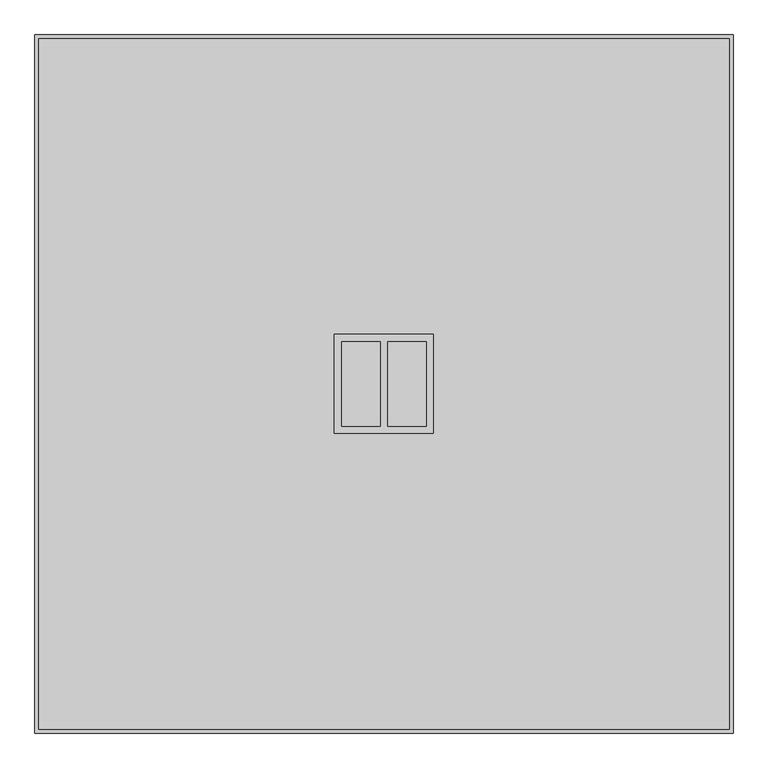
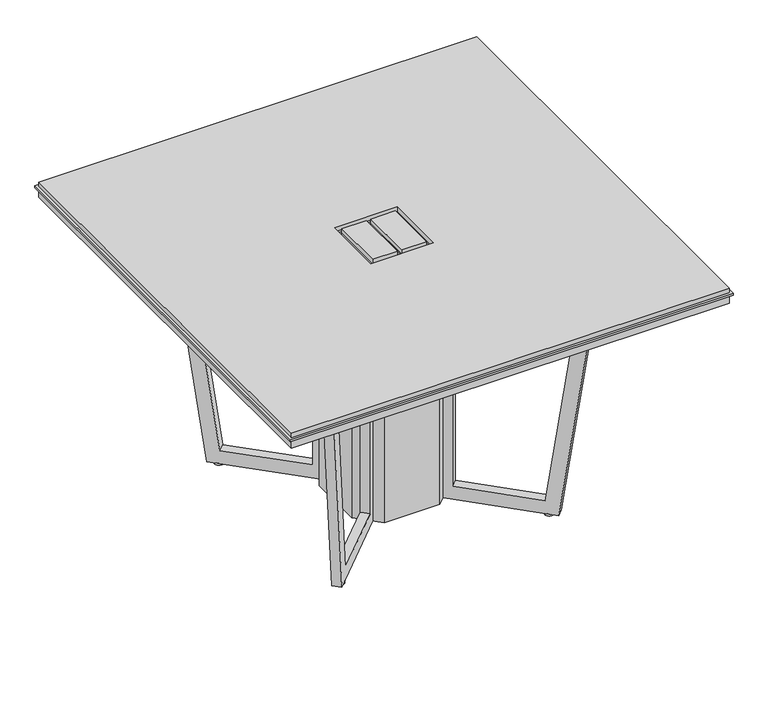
"""IFC4 building model written with IfcOpenShell, lengths in millimetres: furniture geometry, Knoll_Datesweiser_Tables_Meeting_Highline_Square : 48W Corian WireMgmt."""

from ifc_helpers import new_model, si_unit, point, frame, frame_2d, origin, origin_with_axes, place, context, project, spatial, polyline, circle_curve, trimmed, segment, composite_curve, outline, extrude, faceted_brep, source, transform, mapped, element, save


def furniture_71493e91(model_context):
    return source(origin(), model_context, "Body", "SolidModel", [
        extrude(outline(polyline([(609.6, 609.6), (609.6, -609.6), (-609.6, -609.6), (-609.6, 609.6), (609.6, 609.6)])), frame((0.0, 0.0, 698.5), z_axis=(0.0, 0.0, 1.0), x_axis=(1.0, 0.0, 0.0)), (0.0, 0.0, 1.0), 25.4),
        extrude(outline(polyline([(609.6, 609.6), (609.6, -609.6), (-609.6, -609.6), (-609.6, 609.6), (609.6, 609.6)]), holes=[polyline([(-87.3125, -87.3125), (87.3125, -87.3125), (87.3125, 87.3125), (-87.3125, 87.3125), (-87.3125, -87.3125)])]), frame((0.0, 0.0, 730.25), z_axis=(0.0, 0.0, 1.0), x_axis=(1.0, 0.0, 0.0)), (0.0, 0.0, 1.0), 12.7),
        extrude(outline(polyline([(6.35, -74.6125), (6.35, 74.6125), (74.6125, 74.6125), (74.6125, -74.6125), (6.35, -74.6125)])), frame((0.0, 0.0, 730.25), z_axis=(0.0, 0.0, 1.0), x_axis=(1.0, 0.0, 0.0)), (0.0, 0.0, 1.0), 12.7),
        extrude(outline(polyline([(-6.35, 74.6125), (-6.35, -74.6125), (-74.6125, -74.6125), (-74.6125, 74.6125), (-6.35, 74.6125)])), frame((0.0, 0.0, 730.25), z_axis=(0.0, 0.0, 1.0), x_axis=(1.0, 0.0, 0.0)), (0.0, 0.0, 1.0), 12.7),
        extrude(outline(polyline([(615.95, 615.95), (615.95, -615.95), (-615.95, -615.95), (-615.95, 615.95), (615.95, 615.95)]), holes=[polyline([(-87.3125, -87.3125), (87.3125, -87.3125), (87.3125, 87.3125), (-87.3125, 87.3125), (-87.3125, -87.3125)])]), frame((0.0, 0.0, 723.9), z_axis=(0.0, 0.0, 1.0), x_axis=(1.0, 0.0, 0.0)), (0.0, 0.0, 1.0), 6.35),
        extrude(outline(polyline([(6.35, -74.6125), (6.35, 74.6125), (74.6125, 74.6125), (74.6125, -74.6125), (6.35, -74.6125)])), frame((0.0, 0.0, 723.9), z_axis=(0.0, 0.0, 1.0), x_axis=(1.0, 0.0, 0.0)), (0.0, 0.0, 1.0), 6.35),
        extrude(outline(polyline([(-6.35, 74.6125), (-6.35, -74.6125), (-74.6125, -74.6125), (-74.6125, 74.6125), (-6.35, 74.6125)])), frame((0.0, 0.0, 723.9), z_axis=(0.0, 0.0, 1.0), x_axis=(1.0, 0.0, 0.0)), (0.0, 0.0, 1.0), 6.35),
        extrude(outline(composite_curve([segment(trimmed(circle_curve(frame_2d((-291.4942533, -291.4942533)), 12.7), [point((-278.7942533, -291.4942533))], [point((-304.1942533, -291.4942533))], False, "CARTESIAN"), True, "CONTINUOUS"), segment(trimmed(circle_curve(frame_2d((-291.4942533, -291.4942533)), 12.7), [point((-304.1942533, -291.4942533))], [point((-278.7942533, -291.4942533))], False, "CARTESIAN"), True, "CONTINUOUS")], self_intersect=False)), origin_with_axes(), (0.0, 0.0, 1.0), 5.9867797),
        extrude(outline(composite_curve([segment(trimmed(circle_curve(frame_2d((-291.4942533, 291.4942533)), 12.7), [point((-278.7942533, 291.4942533))], [point((-304.1942533, 291.4942533))], False, "CARTESIAN"), True, "CONTINUOUS"), segment(trimmed(circle_curve(frame_2d((-291.4942533, 291.4942533)), 12.7), [point((-304.1942533, 291.4942533))], [point((-278.7942533, 291.4942533))], False, "CARTESIAN"), True, "CONTINUOUS")], self_intersect=False)), origin_with_axes(), (0.0, 0.0, 1.0), 5.9867797),
        extrude(outline(composite_curve([segment(trimmed(circle_curve(frame_2d((291.4942533, -291.4942533)), 12.7), [point((304.1942533, -291.4942533))], [point((278.7942533, -291.4942533))], False, "CARTESIAN"), True, "CONTINUOUS"), segment(trimmed(circle_curve(frame_2d((291.4942533, -291.4942533)), 12.7), [point((278.7942533, -291.4942533))], [point((304.1942533, -291.4942533))], False, "CARTESIAN"), True, "CONTINUOUS")], self_intersect=False)), origin_with_axes(), (0.0, 0.0, 1.0), 5.9867797),
        extrude(outline(composite_curve([segment(trimmed(circle_curve(frame_2d((291.4942533, 291.4942533)), 12.7), [point((304.1942533, 291.4942533))], [point((278.7942533, 291.4942533))], False, "CARTESIAN"), True, "CONTINUOUS"), segment(trimmed(circle_curve(frame_2d((291.4942533, 291.4942533)), 12.7), [point((278.7942533, 291.4942533))], [point((304.1942533, 291.4942533))], False, "CARTESIAN"), True, "CONTINUOUS")], self_intersect=False)), origin_with_axes(), (0.0, 0.0, 1.0), 5.9867797),
        extrude(outline(polyline([(687.3294598, 0.0), (687.7189281, -302.8812361), (-4.9389753, -400.2213524), (-4.9386158, -361.7469045), (649.4754872, -269.7812402), (649.4776515, -38.0996402), (-4.9355924, -38.0935268), (-4.9352365, 0.0), (687.3294598, 0.0)])), frame((87.5574969, -105.5180091, 693.5647877), z_axis=(0.7071067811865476, 0.7071067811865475, 0.0), x_axis=(-6.605612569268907e-06, 6.605612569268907e-06, -0.9999999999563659)), (0.0, 0.0, 1.0), 25.4),
        extrude(outline(polyline([(687.3320105, 273.0371574), (-4.9326857, 273.0500913), (-4.9323299, 311.1436182), (649.480914, 311.1375048), (649.4830783, 542.8191048), (-4.9293064, 634.7969958), (-4.928947, 673.2714438), (687.7271376, 575.9183862), (687.3320105, 273.0371574)])), frame((87.5574969, -105.5180091, 693.5647877), z_axis=(0.7071067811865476, 0.7071067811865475, 0.0), x_axis=(-6.605612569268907e-06, 6.605612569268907e-06, -0.9999999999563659)), (0.0, 0.0, 1.0), 25.4),
        faceted_brep([(-134.8689207, 77.8517251, 679.2551774), (-134.8689207, -77.8517528, 679.2551774), (-115.3405882, -97.3800759, 679.2551774), (-105.5179146, -87.5574023, 679.2551774), (-87.5574023, -105.5179146, 679.2551774), (-97.3800716, -115.3405838, 679.2551774), (-77.8517251, -134.8689207, 679.2551774), (77.8517251, -134.8689207, 679.2551774), (134.8689207, -77.8517528, 679.2551774), (134.8689207, 77.8517251, 679.2551774), (115.3405838, 97.3800716, 679.2551774), (105.5179146, 87.5574023, 679.2551774), (87.5574023, 105.5179146, 679.2551774), (97.3800759, 115.3405882, 679.2551774), (77.8517528, 134.8689207, 679.2551774), (-77.8517528, 134.8689207, 679.2551774), (-134.8689207, 77.8517251, 5.8810183), (-77.8517528, 134.8689207, 5.8810183), (77.8517528, 134.8689207, 5.8810183), (134.8689207, 77.8517251, 5.8810183), (134.8689207, -77.8517528, 5.8810183), (77.8517251, -134.8689207, 5.8810183), (-77.8517251, -134.8689207, 5.8810183), (-134.8689207, -77.8517528, 5.8810183), (-97.3800716, -115.3405838, 6.2173274), (-115.3405882, -97.3800759, 6.2173274), (97.3800759, 115.3405882, 6.2173274), (115.3405838, 97.3800716, 6.2173274), (87.5575295, 105.5180417, 698.5000242), (114.4937206, 132.4542329, 698.5000242), (114.4937206, 132.4542329, 44.0867803), (278.3173511, 296.2778633, 44.0867803), (343.3512187, 361.311731, 698.5000242), (370.5567618, 388.517274, 698.5000242), (301.72233, 319.6828422, 5.8430302), (-319.6828422, -301.72233, 5.8430302), (-388.517274, -370.5567618, 698.5000242), (-361.311731, -343.3512187, 698.5000242), (-296.2778633, -278.3173511, 44.0867803), (-132.4542329, -114.4937206, 44.0867803), (-132.4542329, -114.4937206, 698.5000242), (-105.5180417, -87.5575295, 698.5000242), (319.6828422, 301.72233, 5.8430302), (388.517274, 370.5567618, 698.5000242), (361.311731, 343.3512187, 698.5000242), (296.2778633, 278.3173511, 44.0867803), (132.4542329, 114.4937206, 44.0867803), (132.4542329, 114.4937206, 698.5000242), (105.5180417, 87.5575295, 698.5000242), (-87.5575295, -105.5180417, 698.5000242), (-114.4937206, -132.4542329, 698.5000242), (-114.4937206, -132.4542329, 44.0867803), (-278.3173511, -296.2778633, 44.0867803), (-343.3512187, -361.311731, 698.5000242), (-370.5567618, -388.517274, 698.5000242), (-301.72233, -319.6828422, 5.8430302)], [[[0, 1, 2, 3, 4, 5, 6, 7, 8, 9, 10, 11, 12, 13, 14, 15]], [[16, 17, 18, 19, 20, 21, 22, 23]], [[1, 0, 16, 23]], [[23, 22, 6, 5, 24, 25, 2, 1]], [[7, 6, 22, 21]], [[8, 7, 21, 20]], [[9, 8, 20, 19]], [[19, 18, 14, 13, 26, 27, 10, 9]], [[15, 14, 18, 17]], [[0, 15, 17, 16]], [[28, 29, 30, 31, 32, 33, 34, 26, 13, 12]], [[35, 36, 37, 38, 39, 40, 41, 3, 2, 25]], [[42, 43, 44, 45, 46, 47, 48, 11, 10, 27]], [[49, 50, 51, 52, 53, 54, 55, 24, 5, 4]], [[31, 30, 46, 45]], [[32, 31, 45, 44]], [[33, 32, 44, 43]], [[34, 33, 43, 42]], [[34, 42, 27, 26]], [[48, 28, 12, 11]], [[29, 28, 48, 47]], [[30, 29, 47, 46]], [[55, 35, 25, 24]], [[36, 35, 55, 54]], [[37, 36, 54, 53]], [[38, 37, 53, 52]], [[39, 38, 52, 51]], [[40, 39, 51, 50]], [[41, 40, 50, 49]], [[41, 49, 4, 3]]]),
    ])


if __name__ == "__main__":
    model = new_model("IFC4")
    model_context = context("Model", 3, world=origin())
    ifc_project = project(units=[si_unit("LENGTHUNIT", "METRE", prefix="MILLI")], contexts=[model_context])
    site = spatial("IfcSite", under=ifc_project)
    building = spatial("IfcBuilding", under=site)
    placement = place(None, origin())
    furniture_shape = furniture_71493e91(model_context)
    element("IfcFurniture", 1, ObjectType="Knoll_Datesweiser_Tables_Meeting_Highline_Square : 48W Corian WireMgmt", at=placement, inside=building, context=model_context, shape_type="MappedRepresentation", body=[
        mapped(furniture_shape, transform((0.0, 0.0, 0.0), x_axis=(1.0, 0.0, 0.0), y_axis=(0.0, 1.0, 0.0), z_axis=(0.0, 0.0, 1.0))),
    ])
    save(model, "model.ifc")
